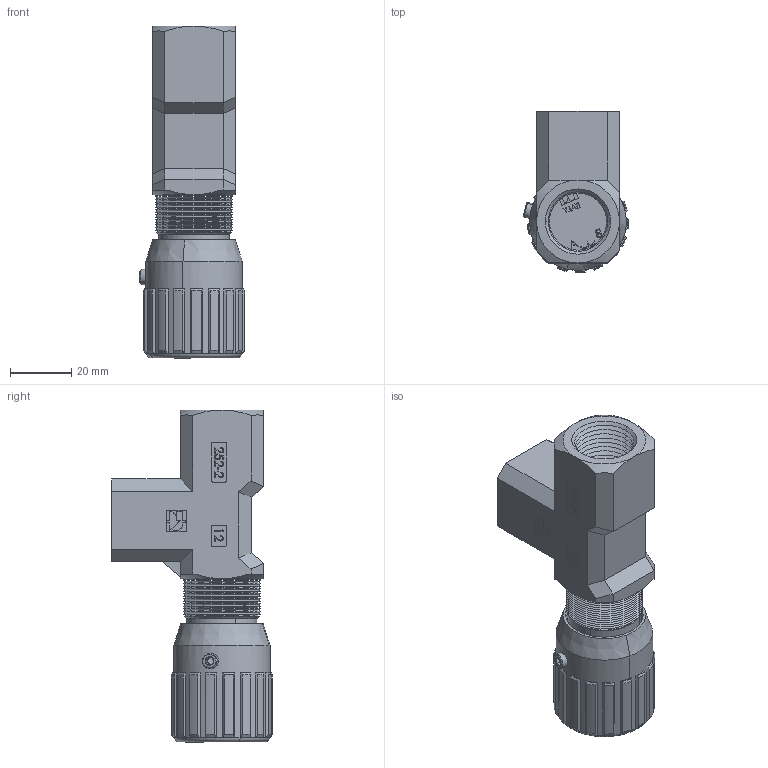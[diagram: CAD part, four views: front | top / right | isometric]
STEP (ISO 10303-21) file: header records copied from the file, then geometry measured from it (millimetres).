
FILE_DESCRIPTION (( 'STEP AP214' ), '1' );
FILE_NAME ('252-2-12 VOLANTINO F-F.STEP', '2015-05-15T15:44:11', ( '' ), ( '' ), 'SwSTEP 2.0', 'SolidWorks 2014', '' );
FILE_SCHEMA (( 'AUTOMOTIVE_DESIGN' ));
Length unit declared in the file: millimetre
Products named in the file (1): 252-2-12 VOLANTINO F-F
Bounding box: 34.3 x 52.49 x 108.25 mm (x, y, z)
Surface area: 19696 mm2 (no closed solid volume)
Topology: 0 solids, 18 shells, 581 faces, 1890 edges, 1254 vertices
Faces by surface type: plane 307, cone 162, cylinder 76, bspline 34, torus 2
Entity records: 29547 total; most frequent: CARTESIAN_POINT 7029, DIRECTION 3198, ORIENTED_EDGE 3182, EDGE_CURVE 1890, VECTOR 1276, LINE 1276, VERTEX_POINT 1254, AXIS2_PLACEMENT_3D 961
